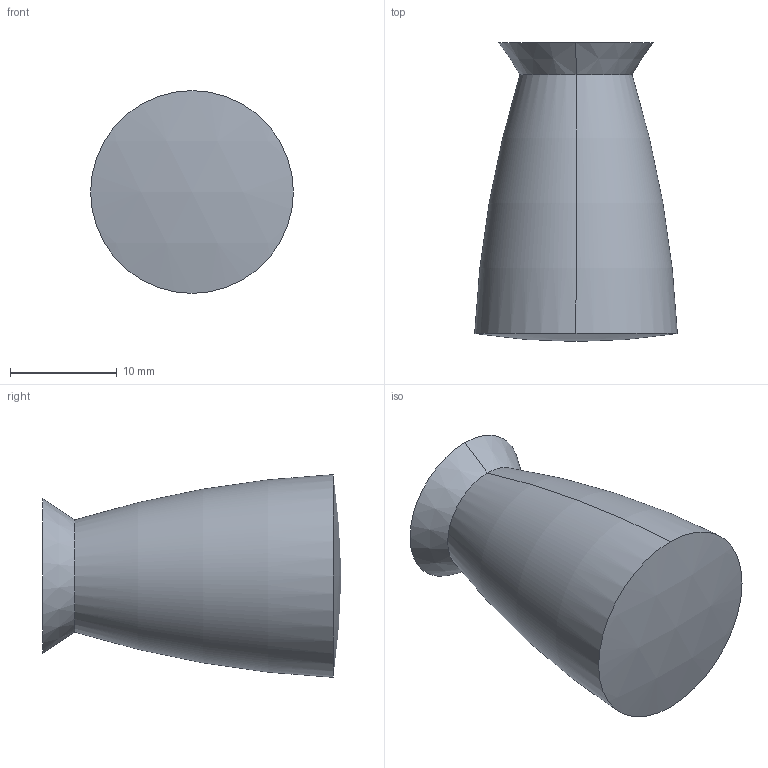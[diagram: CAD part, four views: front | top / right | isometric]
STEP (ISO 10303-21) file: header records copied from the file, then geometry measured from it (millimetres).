
FILE_DESCRIPTION( ( '' ), '1' );
FILE_NAME( 'C:/Documents and Settings/Nikhil/Desktop/Nik/Done/115230.stp', '2013-10-23T11:27:12', ( '' ), ( '' ), ' ', ' ', ' ' );
FILE_SCHEMA( ( 'automotive_design' ) );
Length unit declared in the file: millimetre
Products named in the file (1): 1
Bounding box: 19 x 28 x 19 mm (x, y, z)
Volume: 5196.6 mm3; surface area: 1965.2 mm2
Topology: 1 solids, 1 shells, 9 faces, 16 edges, 10 vertices
Faces by surface type: torus 2, cone 2, plane 2, cylinder 2, sphere 1
Entity records: 452 total; most frequent: DIRECTION 48, STYLED_ITEM 36, PRESENTATION_STYLE_ASSIGNMENT 36, CARTESIAN_POINT 36, COLOUR_RGB 36, ORIENTED_EDGE 32, AXIS2_PLACEMENT_3D 22, EDGE_CURVE 16
